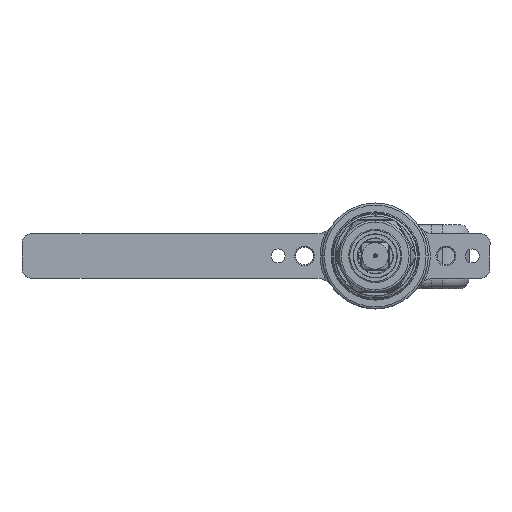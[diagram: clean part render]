
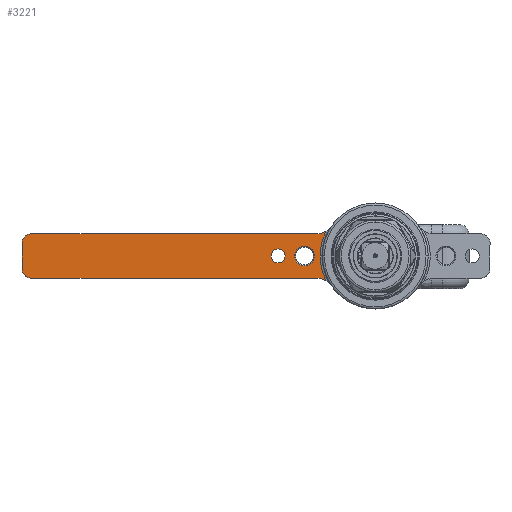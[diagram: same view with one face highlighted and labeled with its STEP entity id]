
A CAD part, top view. The second image highlights one B-rep face of the part: STEP entity #3221.
In plain terms, the highlighted planar face has unit normal (0, 0, 1).
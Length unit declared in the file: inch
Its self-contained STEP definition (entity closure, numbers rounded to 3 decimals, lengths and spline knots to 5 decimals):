
#44 = LINE ( 'NONE', #12079, #35731 ) ;
#600 = CARTESIAN_POINT ( 'NONE',  ( -9.75, -0.375, 17.00507 ) ) ;
#620 = FACE_OUTER_BOUND ( 'NONE', #18787, .T. ) ;
#683 = DIRECTION ( 'NONE',  ( 0., 1., 0. ) ) ;
#2129 = CARTESIAN_POINT ( 'NONE',  ( -2.9485, 0., 17.00507 ) ) ;
#2229 = ORIENTED_EDGE ( 'NONE', *, *, #53066, .T. ) ;
#2273 = ORIENTED_EDGE ( 'NONE', *, *, #15125, .T. ) ;
#2393 = CARTESIAN_POINT ( 'NONE',  ( -1.72, 0., 17.00507 ) ) ;
#2706 = ORIENTED_EDGE ( 'NONE', *, *, #44192, .T. ) ;
#3213 = DIRECTION ( 'NONE',  ( -1., 0., 0. ) ) ;
#3221 = ADVANCED_FACE ( 'NONE', ( #12998, #32788, #620 ), #55052, .T. ) ;
#3279 = EDGE_CURVE ( 'NONE', #54830, #4807, #24164, .T. ) ;
#3364 = CIRCLE ( 'NONE', #8892, 1.56 ) ;
#4467 = LINE ( 'NONE', #41623, #16838 ) ;
#4807 = VERTEX_POINT ( 'NONE', #33434 ) ;
#4811 = DIRECTION ( 'NONE',  ( 0., 0., 1. ) ) ;
#5878 = EDGE_CURVE ( 'NONE', #19235, #27251, #35676, .T. ) ;
#6030 = CARTESIAN_POINT ( 'NONE',  ( -2.5515, 0., 17.00507 ) ) ;
#6220 = DIRECTION ( 'NONE',  ( -1., 0., 0. ) ) ;
#6268 = VECTOR ( 'NONE', #683, 39.37008 ) ;
#6719 = ORIENTED_EDGE ( 'NONE', *, *, #47090, .F. ) ;
#6887 = CARTESIAN_POINT ( 'NONE',  ( -10., -0.375, 17.00507 ) ) ;
#7158 = CARTESIAN_POINT ( 'NONE',  ( -1.65359, 0.625, 17.00507 ) ) ;
#7400 = AXIS2_PLACEMENT_3D ( 'NONE', #32639, #4811, #37410 ) ;
#8831 = AXIS2_PLACEMENT_3D ( 'NONE', #41046, #30664, #29775 ) ;
#8892 = AXIS2_PLACEMENT_3D ( 'NONE', #46241, #33126, #31482 ) ;
#9697 = VERTEX_POINT ( 'NONE', #30438 ) ;
#10445 = AXIS2_PLACEMENT_3D ( 'NONE', #14111, #46647, #18784 ) ;
#12079 = CARTESIAN_POINT ( 'NONE',  ( -10., 0.625, 17.00507 ) ) ;
#12181 = DIRECTION ( 'NONE',  ( -1., 0., 0. ) ) ;
#12581 = VERTEX_POINT ( 'NONE', #39307 ) ;
#12998 = FACE_BOUND ( 'NONE', #31893, .T. ) ;
#13356 = DIRECTION ( 'NONE',  ( 1., 0., 0. ) ) ;
#13553 = EDGE_CURVE ( 'NONE', #54830, #55493, #17049, .T. ) ;
#14111 = CARTESIAN_POINT ( 'NONE',  ( -2., 0., 17.00507 ) ) ;
#15125 = EDGE_CURVE ( 'NONE', #12581, #53903, #44913, .T. ) ;
#16838 = VECTOR ( 'NONE', #18391, 39.37008 ) ;
#17049 = LINE ( 'NONE', #22529, #6268 ) ;
#18222 = CARTESIAN_POINT ( 'NONE',  ( -1.65359, 1.125, 17.00507 ) ) ;
#18391 = DIRECTION ( 'NONE',  ( -1., 0., 0. ) ) ;
#18426 = ORIENTED_EDGE ( 'NONE', *, *, #3279, .T. ) ;
#18784 = DIRECTION ( 'NONE',  ( -1., 0., 0. ) ) ;
#18787 = EDGE_LOOP ( 'NONE', ( #37253, #59338, #57064, #2273, #6719, #2706, #43504, #18426, #41520 ) ) ;
#19235 = VERTEX_POINT ( 'NONE', #43306 ) ;
#19328 = CIRCLE ( 'NONE', #10445, 0.28 ) ;
#21566 = DIRECTION ( 'NONE',  ( 1., 0., 0. ) ) ;
#21572 = CARTESIAN_POINT ( 'NONE',  ( -10., 0.375, 17.00507 ) ) ;
#22529 = CARTESIAN_POINT ( 'NONE',  ( -10., -0.625, 17.00507 ) ) ;
#24164 = CIRCLE ( 'NONE', #43236, 0.25 ) ;
#24772 = CARTESIAN_POINT ( 'NONE',  ( 0., 0., 17.00507 ) ) ;
#25268 = VERTEX_POINT ( 'NONE', #39601 ) ;
#25544 = CIRCLE ( 'NONE', #29126, 1.56 ) ;
#25940 = CARTESIAN_POINT ( 'NONE',  ( -1.65359, -1.125, 17.00507 ) ) ;
#26042 = DIRECTION ( 'NONE',  ( 0., 0., 1. ) ) ;
#26617 = ORIENTED_EDGE ( 'NONE', *, *, #5878, .T. ) ;
#27251 = VERTEX_POINT ( 'NONE', #2393 ) ;
#27998 = AXIS2_PLACEMENT_3D ( 'NONE', #24772, #53587, #13356 ) ;
#29013 = EDGE_LOOP ( 'NONE', ( #33338, #30645 ) ) ;
#29126 = AXIS2_PLACEMENT_3D ( 'NONE', #58915, #31030, #3213 ) ;
#29775 = DIRECTION ( 'NONE',  ( -1., 0., 0. ) ) ;
#30246 = AXIS2_PLACEMENT_3D ( 'NONE', #49348, #26042, #12181 ) ;
#30438 = CARTESIAN_POINT ( 'NONE',  ( -1.65359, -0.625, 17.00507 ) ) ;
#30645 = ORIENTED_EDGE ( 'NONE', *, *, #38466, .F. ) ;
#30664 = DIRECTION ( 'NONE',  ( 0., 0., -1. ) ) ;
#31030 = DIRECTION ( 'NONE',  ( 0., 0., -1. ) ) ;
#31207 = CARTESIAN_POINT ( 'NONE',  ( -2.75, 0., 17.00507 ) ) ;
#31482 = DIRECTION ( 'NONE',  ( -1., 0., 0. ) ) ;
#31687 = VERTEX_POINT ( 'NONE', #6030 ) ;
#31893 = EDGE_LOOP ( 'NONE', ( #26617, #2229 ) ) ;
#32611 = EDGE_CURVE ( 'NONE', #31687, #41671, #41034, .T. ) ;
#32639 = CARTESIAN_POINT ( 'NONE',  ( -9.75, 0.375, 17.00507 ) ) ;
#32788 = FACE_BOUND ( 'NONE', #29013, .T. ) ;
#32823 = CIRCLE ( 'NONE', #36255, 0.1985 ) ;
#33126 = DIRECTION ( 'NONE',  ( 0., 0., -1. ) ) ;
#33338 = ORIENTED_EDGE ( 'NONE', *, *, #32611, .F. ) ;
#33434 = CARTESIAN_POINT ( 'NONE',  ( -9.75, -0.625, 17.00507 ) ) ;
#34676 = DIRECTION ( 'NONE',  ( 0., 0., 1. ) ) ;
#35004 = CIRCLE ( 'NONE', #7400, 0.25 ) ;
#35676 = CIRCLE ( 'NONE', #8831, 0.28 ) ;
#35731 = VECTOR ( 'NONE', #21566, 39.37008 ) ;
#36255 = AXIS2_PLACEMENT_3D ( 'NONE', #31207, #45303, #40666 ) ;
#37099 = CARTESIAN_POINT ( 'NONE',  ( -1.39586, -0.69655, 17.00507 ) ) ;
#37253 = ORIENTED_EDGE ( 'NONE', *, *, #37357, .T. ) ;
#37357 = EDGE_CURVE ( 'NONE', #9697, #53537, #54332, .T. ) ;
#37410 = DIRECTION ( 'NONE',  ( -1., 0., 0. ) ) ;
#37553 = EDGE_CURVE ( 'NONE', #53537, #25268, #3364, .T. ) ;
#38466 = EDGE_CURVE ( 'NONE', #41671, #31687, #32823, .T. ) ;
#39288 = AXIS2_PLACEMENT_3D ( 'NONE', #25940, #57822, #42452 ) ;
#39307 = CARTESIAN_POINT ( 'NONE',  ( -1.39586, 0.69655, 17.00507 ) ) ;
#39601 = CARTESIAN_POINT ( 'NONE',  ( -1.56, 0., 17.00507 ) ) ;
#40666 = DIRECTION ( 'NONE',  ( -1., 0., 0. ) ) ;
#41034 = CIRCLE ( 'NONE', #30246, 0.1985 ) ;
#41046 = CARTESIAN_POINT ( 'NONE',  ( -2., 0., 17.00507 ) ) ;
#41520 = ORIENTED_EDGE ( 'NONE', *, *, #46734, .F. ) ;
#41623 = CARTESIAN_POINT ( 'NONE',  ( -10., -0.625, 17.00507 ) ) ;
#41671 = VERTEX_POINT ( 'NONE', #2129 ) ;
#42452 = DIRECTION ( 'NONE',  ( -1., 0., 0. ) ) ;
#43187 = CARTESIAN_POINT ( 'NONE',  ( -9.75, 0.625, 17.00507 ) ) ;
#43236 = AXIS2_PLACEMENT_3D ( 'NONE', #600, #34676, #53051 ) ;
#43306 = CARTESIAN_POINT ( 'NONE',  ( -2.28, 0., 17.00507 ) ) ;
#43504 = ORIENTED_EDGE ( 'NONE', *, *, #13553, .F. ) ;
#44192 = EDGE_CURVE ( 'NONE', #50619, #55493, #35004, .T. ) ;
#44913 = CIRCLE ( 'NONE', #50451, 0.5 ) ;
#45303 = DIRECTION ( 'NONE',  ( 0., 0., 1. ) ) ;
#46241 = CARTESIAN_POINT ( 'NONE',  ( 0., 0., 17.00507 ) ) ;
#46647 = DIRECTION ( 'NONE',  ( 0., 0., -1. ) ) ;
#46734 = EDGE_CURVE ( 'NONE', #9697, #4807, #4467, .T. ) ;
#47090 = EDGE_CURVE ( 'NONE', #50619, #53903, #44, .T. ) ;
#49348 = CARTESIAN_POINT ( 'NONE',  ( -2.75, 0., 17.00507 ) ) ;
#50451 = AXIS2_PLACEMENT_3D ( 'NONE', #18222, #55233, #6220 ) ;
#50619 = VERTEX_POINT ( 'NONE', #43187 ) ;
#53051 = DIRECTION ( 'NONE',  ( -1., 0., 0. ) ) ;
#53066 = EDGE_CURVE ( 'NONE', #27251, #19235, #19328, .T. ) ;
#53537 = VERTEX_POINT ( 'NONE', #37099 ) ;
#53587 = DIRECTION ( 'NONE',  ( 0., 0., 1. ) ) ;
#53903 = VERTEX_POINT ( 'NONE', #7158 ) ;
#54332 = CIRCLE ( 'NONE', #39288, 0.5 ) ;
#54830 = VERTEX_POINT ( 'NONE', #6887 ) ;
#54917 = EDGE_CURVE ( 'NONE', #25268, #12581, #25544, .T. ) ;
#55052 = PLANE ( 'NONE',  #27998 ) ;
#55233 = DIRECTION ( 'NONE',  ( 0., 0., -1. ) ) ;
#55493 = VERTEX_POINT ( 'NONE', #21572 ) ;
#57064 = ORIENTED_EDGE ( 'NONE', *, *, #54917, .T. ) ;
#57822 = DIRECTION ( 'NONE',  ( 0., 0., -1. ) ) ;
#58915 = CARTESIAN_POINT ( 'NONE',  ( 0., 0., 17.00507 ) ) ;
#59338 = ORIENTED_EDGE ( 'NONE', *, *, #37553, .T. ) ;
